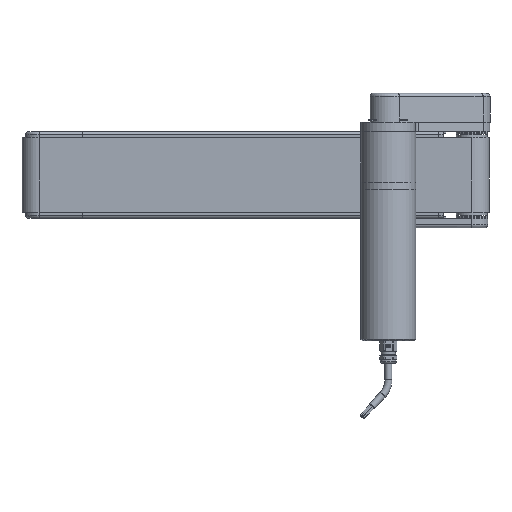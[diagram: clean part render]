
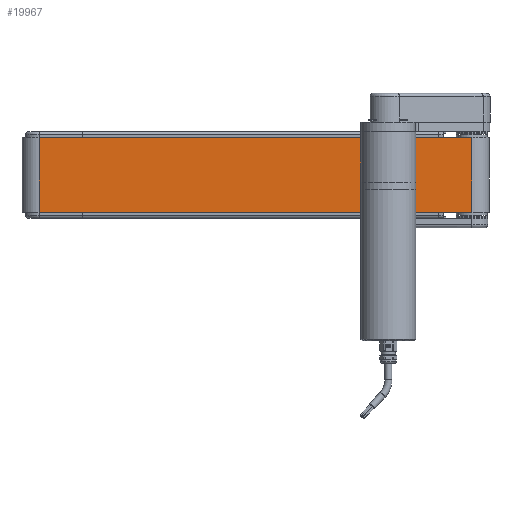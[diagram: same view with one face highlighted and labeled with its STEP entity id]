
A CAD part, top view. The second image highlights one B-rep face of the part: STEP entity #19967.
In plain terms, the highlighted planar face has unit normal (0, 0, 1).
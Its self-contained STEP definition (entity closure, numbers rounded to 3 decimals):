
#1250=PLANE('',#22023);
#2345=FACE_OUTER_BOUND('',#3561,.T.);
#3561=EDGE_LOOP('',(#17629,#17630,#17631,#17632));
#4957=LINE('',#42930,#6353);
#4961=LINE('',#42940,#6357);
#4962=LINE('',#42942,#6358);
#4963=LINE('',#42943,#6359);
#6353=VECTOR('',#27386,10.);
#6357=VECTOR('',#27394,10.);
#6358=VECTOR('',#27395,10.);
#6359=VECTOR('',#27396,10.);
#9260=VERTEX_POINT('',#42927);
#9261=VERTEX_POINT('',#42929);
#9265=VERTEX_POINT('',#42939);
#9266=VERTEX_POINT('',#42941);
#12052=EDGE_CURVE('',#9260,#9261,#4957,.T.);
#12057=EDGE_CURVE('',#9265,#9260,#4961,.T.);
#12058=EDGE_CURVE('',#9266,#9265,#4962,.T.);
#12059=EDGE_CURVE('',#9261,#9266,#4963,.T.);
#17629=ORIENTED_EDGE('',*,*,#12057,.F.);
#17630=ORIENTED_EDGE('',*,*,#12058,.F.);
#17631=ORIENTED_EDGE('',*,*,#12059,.F.);
#17632=ORIENTED_EDGE('',*,*,#12052,.F.);
#19967=ADVANCED_FACE('',(#2345),#1250,.T.);
#22023=AXIS2_PLACEMENT_3D('',#42938,#27392,#27393);
#27386=DIRECTION('',(1.,0.,0.));
#27392=DIRECTION('center_axis',(0.,0.,
1.));
#27393=DIRECTION('ref_axis',(-1.,0.,0.));
#27394=DIRECTION('',(0.,1.,0.));
#27395=DIRECTION('',(-1.,0.,0.));
#27396=DIRECTION('',(0.,-1.,0.));
#42927=CARTESIAN_POINT('',(-131.196,17.904,2.423));
#42929=CARTESIAN_POINT('',(168.804,17.904,2.423));
#42930=CARTESIAN_POINT('',(168.804,17.904,2.423));
#42938=CARTESIAN_POINT('Origin',(168.804,-8.096,2.423));
#42939=CARTESIAN_POINT('',(-131.196,-34.096,2.423));
#42940=CARTESIAN_POINT('',(-131.196,-8.096,2.423));
#42941=CARTESIAN_POINT('',(168.804,-34.096,2.423));
#42942=CARTESIAN_POINT('',(168.804,-34.096,2.423));
#42943=CARTESIAN_POINT('',(168.804,-8.096,2.423));
